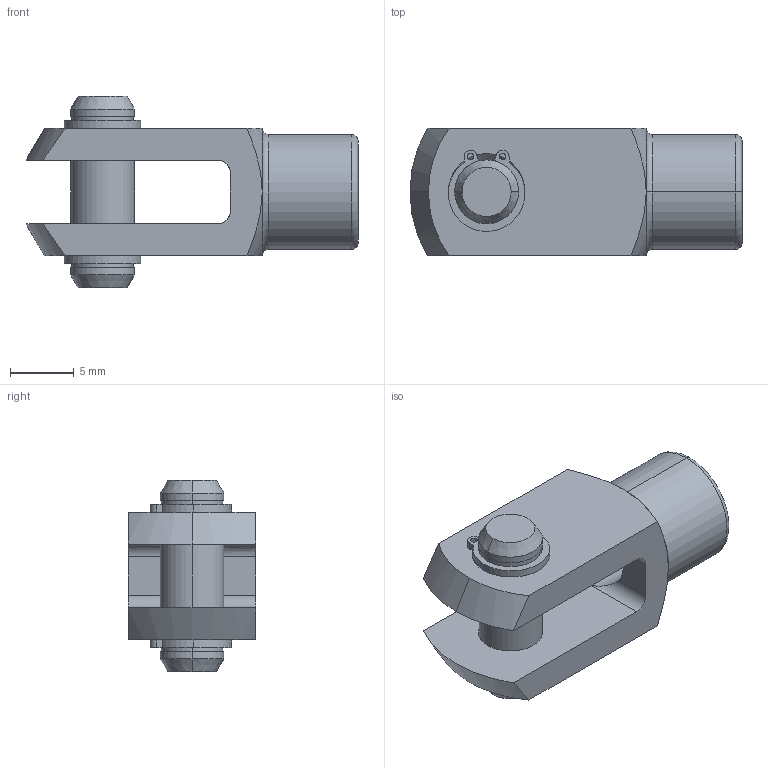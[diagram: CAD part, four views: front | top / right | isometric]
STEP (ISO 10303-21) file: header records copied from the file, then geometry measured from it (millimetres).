
FILE_DESCRIPTION (( 'STEP AP203' ), '1' );
FILE_NAME ('65616.W0051.step', '2014-01-18T10:30:07', ( 'User' ), ( '' ), 'SwSTEP 2.0', 'SolidWorks 2009', '' );
FILE_SCHEMA (( 'CONFIG_CONTROL_DESIGN' ));
Length unit declared in the file: millimetre
Products named in the file (4): 65616.W0051; Part1_65636.W0051; Part2_65666.W0005; Part3_65678.W0005
Assembly tree (4 placements, depth 2):
  65616.W0051
    Part2_65666.W0005
    Part1_65636.W0051
    Part3_65678.W0005  x2
Bounding box: 26 x 10 x 15 mm (x, y, z)
Volume: 1457.7 mm3; surface area: 1672.5 mm2
Topology: 4 solids, 4 shells, 94 faces, 225 edges, 142 vertices
Faces by surface type: cylinder 46, plane 27, cone 17, torus 4
Entity records: 2725 total; most frequent: CARTESIAN_POINT 482, DIRECTION 417, ORIENTED_EDGE 354, EDGE_CURVE 177, AXIS2_PLACEMENT_3D 173, VERTEX_POINT 110, CIRCLE 90, EDGE_LOOP 89
